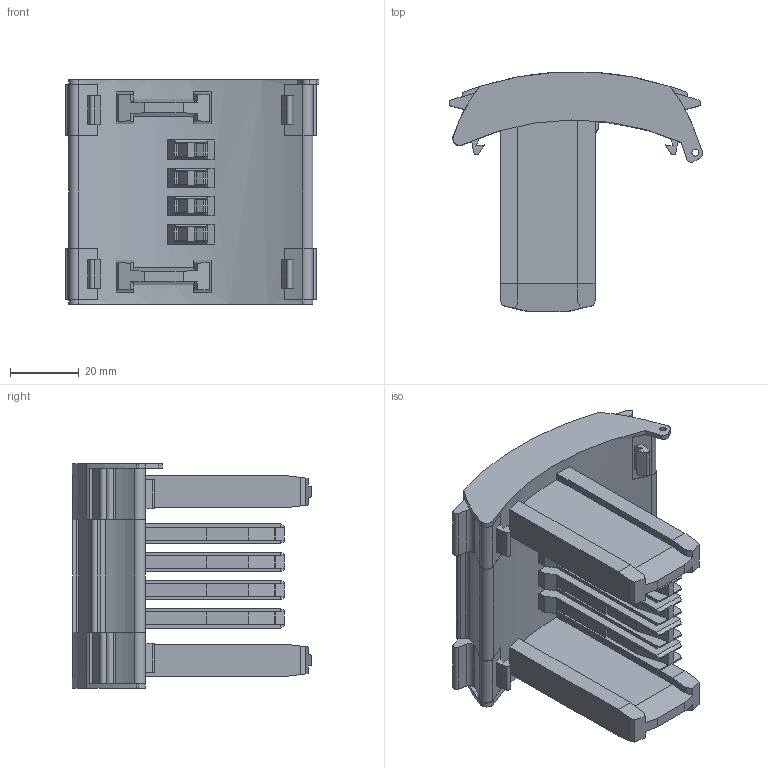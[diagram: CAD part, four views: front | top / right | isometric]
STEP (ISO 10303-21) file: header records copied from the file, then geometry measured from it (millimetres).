
FILE_DESCRIPTION(('TFLEX Exchange Step'),'2;1');
FILE_NAME('3074119_FAME_WP_3+1_STEZ.stp', '2024-05-27T16:33:49+03:00',('apanin'),('Unknown organisation'),'TFLEX Exchange 2023.2','T-FLEX CAD','Unknown authorisation');
FILE_SCHEMA( ('AUTOMOTIVE_DESIGN { 1 0 10303 214 1 1 1 1 }') );
Length unit declared in the file: millimetre
Products named in the file (1): Тело_1 - 3074119_FAME_WP_3_1-select:1
Bounding box: 73.53 x 69.33 x 65.2 mm (x, y, z)
Volume: 88191.5 mm3; surface area: 30228.2 mm2
Topology: 1 solids, 1 shells, 350 faces, 970 edges, 634 vertices
Faces by surface type: plane 289, cylinder 61
Full cylindrical faces by diameter (mm): 2 x1
Entity records: 11245 total; most frequent: CARTESIAN_POINT 1955, ORIENTED_EDGE 1940, DIRECTION 1878, EDGE_CURVE 970, VECTOR 764, LINE 764, VERTEX_POINT 634, AXIS2_PLACEMENT_3D 557
